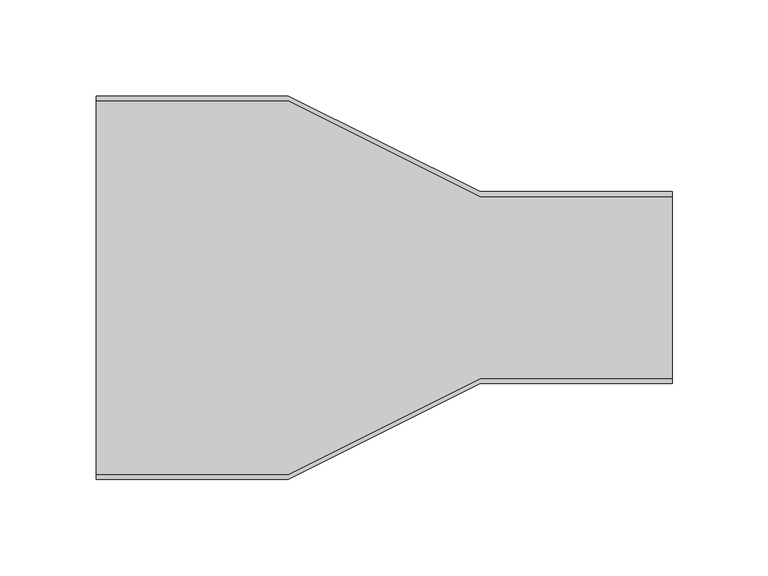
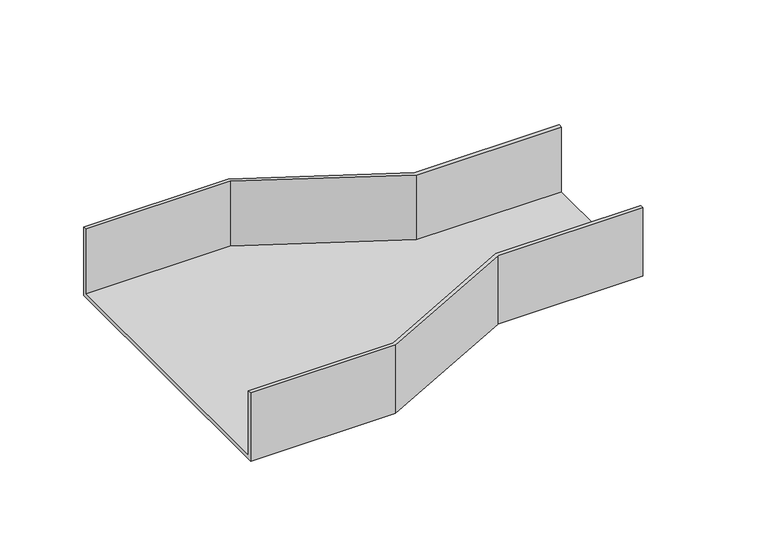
"""IFC4 building model written with IfcOpenShell, lengths in millimetres: cable carrier fitting geometry, BAKS_Reduction-symmetrical_RKZ : RKZCH50."""

from ifc_helpers import new_model, si_unit, origin, place, context, project, spatial, faceted_brep, source, transform, mapped, element, save


def cable_carrier_fitting_9eb58628(model_context):
    return source(origin(), model_context, "Body", "Brep", [
        faceted_brep([(0.0, -100.0, -25.0), (0.0, -100.0, 25.0), (0.0, -97.46, 25.0), (0.0, -97.46, -22.46), (0.0, 97.46, -22.46), (0.0, 97.46, 25.0), (0.0, 100.0, 25.0), (0.0, 100.0, -25.0), (300.0, -50.0, -25.0), (300.0, 50.0, -25.0), (300.0, 50.0, 25.0), (300.0, 47.46, 25.0), (300.0, 47.46, -22.46), (300.0, -47.46, -22.46), (300.0, -47.46, 25.0), (300.0, -50.0, 25.0), (100.0, -100.0, -25.0), (100.0, -100.0, 25.0), (200.0, -50.0, 25.0), (200.0, -47.46, 25.0), (100.0, -97.46, 25.0), (100.0, -97.46, -22.46), (200.0, -47.46, -22.46), (200.0, 47.46, -22.46), (100.0, 97.46, -22.46), (100.0, 97.46, 25.0), (200.0, 47.46, 25.0), (200.0, 50.0, 25.0), (100.0, 100.0, 25.0), (100.0, 100.0, -25.0), (200.0, 50.0, -25.0), (200.0, -50.0, -25.0)], [[[0, 1, 2, 3, 4, 5, 6, 7]], [[8, 9, 10, 11, 12, 13, 14, 15]], [[1, 0, 16, 17]], [[2, 1, 17, 18, 15, 14, 19, 20]], [[3, 2, 20, 21]], [[4, 3, 21, 22, 13, 12, 23, 24]], [[5, 4, 24, 25]], [[6, 5, 25, 26, 11, 10, 27, 28]], [[7, 6, 28, 29]], [[0, 7, 29, 30, 9, 8, 31, 16]], [[8, 15, 18, 31]], [[14, 13, 22, 19]], [[12, 11, 26, 23]], [[10, 9, 30, 27]], [[30, 29, 28, 27]], [[26, 25, 24, 23]], [[22, 21, 20, 19]], [[16, 31, 18, 17]]]),
    ])


if __name__ == "__main__":
    model = new_model("IFC4")
    model_context = context("Model", 3, world=origin())
    ifc_project = project(units=[si_unit("LENGTHUNIT", "METRE", prefix="MILLI")], contexts=[model_context])
    site = spatial("IfcSite", under=ifc_project)
    building = spatial("IfcBuilding", under=site)
    placement = place(None, origin())
    cable_carrier_fitting_shape = cable_carrier_fitting_9eb58628(model_context)
    element("IfcCableCarrierFitting", 1, ObjectType="BAKS_Reduction-symmetrical_RKZ : RKZCH50", at=placement, inside=building, context=model_context, shape_type="MappedRepresentation", body=[
        mapped(cable_carrier_fitting_shape, transform((0.0, 0.0, 0.0), x_axis=(1.0, 0.0, 0.0), y_axis=(0.0, 1.0, 0.0), z_axis=(0.0, 0.0, 1.0))),
    ])
    save(model, "model.ifc")
